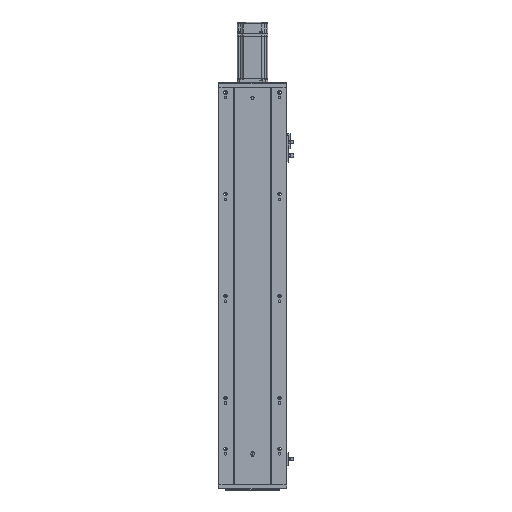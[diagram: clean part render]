
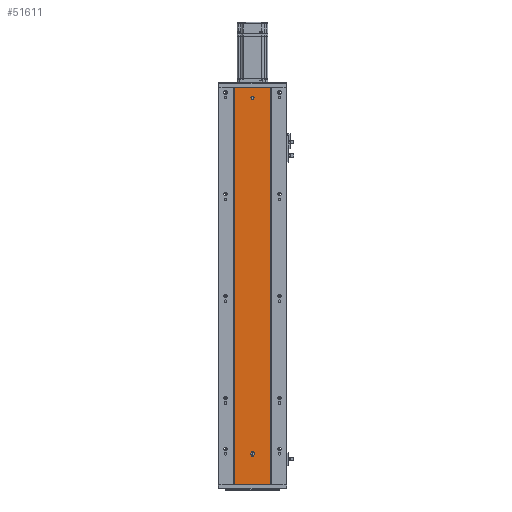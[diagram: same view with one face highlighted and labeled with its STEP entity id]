
A CAD part, front view. The second image highlights one B-rep face of the part: STEP entity #51611.
In plain terms, the highlighted planar face has unit normal (0, -1, 0).
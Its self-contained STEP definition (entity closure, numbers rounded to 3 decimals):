
#138 = EDGE_CURVE ( 'NONE', #55394, #43260, #31270, .T. ) ;
#237 = EDGE_CURVE ( 'NONE', #24753, #34302, #25475, .T. ) ;
#584 = LINE ( 'NONE', #38240, #38142 ) ;
#1105 = DIRECTION ( 'NONE',  ( 0., -1., 0. ) ) ;
#1335 = DIRECTION ( 'NONE',  ( 1., 0., 0. ) ) ;
#1360 = DIRECTION ( 'NONE',  ( -1., 0., 0. ) ) ;
#2796 = CIRCLE ( 'NONE', #56908, 3. ) ;
#5007 = FACE_BOUND ( 'NONE', #44098, .T. ) ;
#5706 = FACE_BOUND ( 'NONE', #59279, .T. ) ;
#6497 = DIRECTION ( 'NONE',  ( 0., 0., -1. ) ) ;
#7399 = CARTESIAN_POINT ( 'NONE',  ( 137.505, 78.746, 62.5 ) ) ;
#9143 = VECTOR ( 'NONE', #6497, 1000. ) ;
#9519 = CARTESIAN_POINT ( 'NONE',  ( 170.005, 78.746, 0. ) ) ;
#9828 = VERTEX_POINT ( 'NONE', #38902 ) ;
#9936 = EDGE_CURVE ( 'NONE', #34302, #9828, #18873, .T. ) ;
#9992 = ORIENTED_EDGE ( 'NONE', *, *, #138, .F. ) ;
#11936 = CARTESIAN_POINT ( 'NONE',  ( 99.005, 78.746, 0. ) ) ;
#14047 = VERTEX_POINT ( 'NONE', #11936 ) ;
#15964 = VECTOR ( 'NONE', #61007, 1000. ) ;
#16642 = VECTOR ( 'NONE', #1360, 1000. ) ;
#17734 = DIRECTION ( 'NONE',  ( 0., 0., 1. ) ) ;
#18873 = CIRCLE ( 'NONE', #63561, 3. ) ;
#19141 = EDGE_CURVE ( 'NONE', #37764, #29883, #47510, .T. ) ;
#20746 = VERTEX_POINT ( 'NONE', #48635 ) ;
#22179 = DIRECTION ( 'NONE',  ( 0., -1., 0. ) ) ;
#22208 = VECTOR ( 'NONE', #17734, 1000. ) ;
#22586 = ORIENTED_EDGE ( 'NONE', *, *, #23573, .T. ) ;
#23223 = DIRECTION ( 'NONE',  ( 0., -1., 0. ) ) ;
#23512 = CARTESIAN_POINT ( 'NONE',  ( 134.505, 78.746, 764. ) ) ;
#23573 = EDGE_CURVE ( 'NONE', #55394, #57759, #42008, .T. ) ;
#23608 = CARTESIAN_POINT ( 'NONE',  ( 170.005, 78.746, 781. ) ) ;
#24753 = VERTEX_POINT ( 'NONE', #64264 ) ;
#24820 = LINE ( 'NONE', #61957, #54313 ) ;
#25147 = CARTESIAN_POINT ( 'NONE',  ( 134.505, 78.746, 62.5 ) ) ;
#25475 = LINE ( 'NONE', #7399, #22208 ) ;
#25526 = ORIENTED_EDGE ( 'NONE', *, *, #38681, .F. ) ;
#27672 = CARTESIAN_POINT ( 'NONE',  ( 134.505, 78.746, 758. ) ) ;
#27958 = DIRECTION ( 'NONE',  ( 0., 0., -1. ) ) ;
#28208 = LINE ( 'NONE', #55938, #15964 ) ;
#28739 = CARTESIAN_POINT ( 'NONE',  ( 134.505, 78.746, 761. ) ) ;
#28750 = EDGE_CURVE ( 'NONE', #57759, #14047, #28208, .T. ) ;
#29740 = DIRECTION ( 'NONE',  ( 0., -1., 0. ) ) ;
#29883 = VERTEX_POINT ( 'NONE', #27672 ) ;
#31270 = LINE ( 'NONE', #64391, #9143 ) ;
#32325 = EDGE_LOOP ( 'NONE', ( #58139, #9992, #22586, #34099 ) ) ;
#33900 = CIRCLE ( 'NONE', #50536, 3. ) ;
#34099 = ORIENTED_EDGE ( 'NONE', *, *, #28750, .T. ) ;
#34222 = DIRECTION ( 'NONE',  ( 1., 0., 0. ) ) ;
#34302 = VERTEX_POINT ( 'NONE', #62045 ) ;
#34362 = FACE_OUTER_BOUND ( 'NONE', #32325, .T. ) ;
#37764 = VERTEX_POINT ( 'NONE', #23512 ) ;
#38142 = VECTOR ( 'NONE', #27958, 1000. ) ;
#38240 = CARTESIAN_POINT ( 'NONE',  ( 131.505, 78.746, 62.5 ) ) ;
#38681 = EDGE_CURVE ( 'NONE', #20746, #24753, #33900, .T. ) ;
#38902 = CARTESIAN_POINT ( 'NONE',  ( 131.505, 78.746, 62.5 ) ) ;
#38955 = ORIENTED_EDGE ( 'NONE', *, *, #45063, .F. ) ;
#40403 = DIRECTION ( 'NONE',  ( -1., 0., 0. ) ) ;
#42008 = LINE ( 'NONE', #63593, #16642 ) ;
#42730 = CARTESIAN_POINT ( 'NONE',  ( 0., 78.746, 781. ) ) ;
#43260 = VERTEX_POINT ( 'NONE', #9519 ) ;
#44098 = EDGE_LOOP ( 'NONE', ( #60529, #62924, #25526, #38955 ) ) ;
#45063 = EDGE_CURVE ( 'NONE', #9828, #20746, #584, .T. ) ;
#45071 = AXIS2_PLACEMENT_3D ( 'NONE', #28739, #65353, #34222 ) ;
#47510 = CIRCLE ( 'NONE', #45071, 3. ) ;
#48635 = CARTESIAN_POINT ( 'NONE',  ( 131.505, 78.746, 59.5 ) ) ;
#50536 = AXIS2_PLACEMENT_3D ( 'NONE', #64462, #1105, #1335 ) ;
#50543 = DIRECTION ( 'NONE',  ( 1., 0., 0. ) ) ;
#51611 = ADVANCED_FACE ( 'NONE', ( #5007, #5706, #34362 ), #63608, .T. ) ;
#54313 = VECTOR ( 'NONE', #40403, 1000. ) ;
#55394 = VERTEX_POINT ( 'NONE', #23608 ) ;
#55938 = CARTESIAN_POINT ( 'NONE',  ( 99.005, 78.746, 781. ) ) ;
#56908 = AXIS2_PLACEMENT_3D ( 'NONE', #64512, #22179, #64934 ) ;
#57759 = VERTEX_POINT ( 'NONE', #58442 ) ;
#58139 = ORIENTED_EDGE ( 'NONE', *, *, #65076, .F. ) ;
#58442 = CARTESIAN_POINT ( 'NONE',  ( 99.005, 78.746, 781. ) ) ;
#59279 = EDGE_LOOP ( 'NONE', ( #65727, #60650 ) ) ;
#60529 = ORIENTED_EDGE ( 'NONE', *, *, #9936, .F. ) ;
#60650 = ORIENTED_EDGE ( 'NONE', *, *, #19141, .F. ) ;
#61007 = DIRECTION ( 'NONE',  ( 0., 0., -1. ) ) ;
#61957 = CARTESIAN_POINT ( 'NONE',  ( 0., 78.746, 0. ) ) ;
#62045 = CARTESIAN_POINT ( 'NONE',  ( 137.505, 78.746, 62.5 ) ) ;
#62924 = ORIENTED_EDGE ( 'NONE', *, *, #237, .F. ) ;
#63034 = AXIS2_PLACEMENT_3D ( 'NONE', #42730, #23223, #65531 ) ;
#63561 = AXIS2_PLACEMENT_3D ( 'NONE', #25147, #29740, #50543 ) ;
#63593 = CARTESIAN_POINT ( 'NONE',  ( 0., 78.746, 781. ) ) ;
#63608 = PLANE ( 'NONE',  #63034 ) ;
#64264 = CARTESIAN_POINT ( 'NONE',  ( 137.505, 78.746, 59.5 ) ) ;
#64391 = CARTESIAN_POINT ( 'NONE',  ( 170.005, 78.746, 781. ) ) ;
#64462 = CARTESIAN_POINT ( 'NONE',  ( 134.505, 78.746, 59.5 ) ) ;
#64512 = CARTESIAN_POINT ( 'NONE',  ( 134.505, 78.746, 761. ) ) ;
#64768 = EDGE_CURVE ( 'NONE', #29883, #37764, #2796, .T. ) ;
#64934 = DIRECTION ( 'NONE',  ( 1., 0., 0. ) ) ;
#65076 = EDGE_CURVE ( 'NONE', #43260, #14047, #24820, .T. ) ;
#65353 = DIRECTION ( 'NONE',  ( 0., -1., 0. ) ) ;
#65531 = DIRECTION ( 'NONE',  ( 1., 0., 0. ) ) ;
#65727 = ORIENTED_EDGE ( 'NONE', *, *, #64768, .F. ) ;
